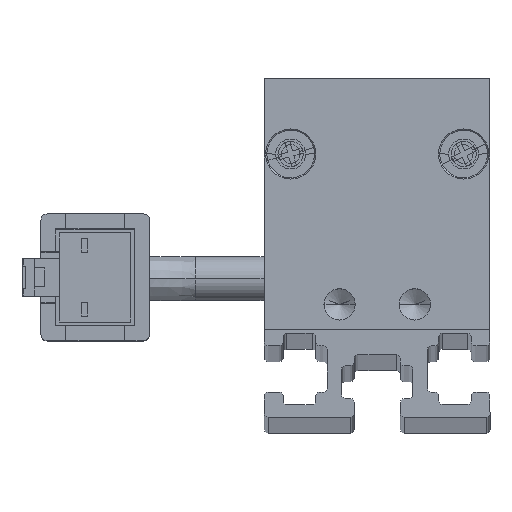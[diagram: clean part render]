
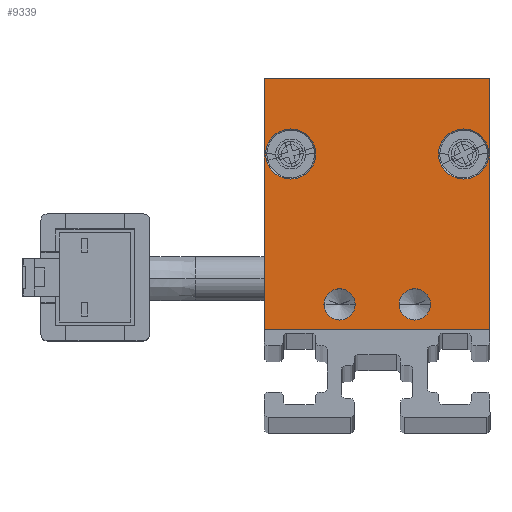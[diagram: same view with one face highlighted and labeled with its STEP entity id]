
A CAD part, top view. The second image highlights one B-rep face of the part: STEP entity #9339.
In plain terms, the highlighted planar face has unit normal (0, 0, 1) as drawn and (0, 0, -1) by its records, which use the part's own axes.
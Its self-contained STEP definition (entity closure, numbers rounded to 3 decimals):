
#350 = VERTEX_POINT ( 'NONE', #11445 ) ;
#455 = CARTESIAN_POINT ( 'NONE',  ( 3., 2., -2.5 ) ) ;
#507 = EDGE_CURVE ( 'NONE', #4960, #9610, #696, .T. ) ;
#592 = AXIS2_PLACEMENT_3D ( 'NONE', #6630, #3814, #5566 ) ;
#696 = CIRCLE ( 'NONE', #8771, 2. ) ;
#1041 = AXIS2_PLACEMENT_3D ( 'NONE', #455, #2402, #4300 ) ;
#1448 = EDGE_CURVE ( 'NONE', #4705, #12423, #3950, .T. ) ;
#1494 = DIRECTION ( 'NONE',  ( -1., 0., 0. ) ) ;
#1530 = DIRECTION ( 'NONE',  ( 0., -1., 0. ) ) ;
#1574 = CARTESIAN_POINT ( 'NONE',  ( 9., 20., -2.5 ) ) ;
#1593 = CIRCLE ( 'NONE', #592, 1.25 ) ;
#1931 = DIRECTION ( 'NONE',  ( -1., 0., 0. ) ) ;
#2077 = EDGE_LOOP ( 'NONE', ( #3131, #11427 ) ) ;
#2402 = DIRECTION ( 'NONE',  ( 0., 0., -1. ) ) ;
#2574 = CARTESIAN_POINT ( 'NONE',  ( -6.9, 14., -2.5 ) ) ;
#2584 = DIRECTION ( 'NONE',  ( 0., 1., 0. ) ) ;
#2820 = DIRECTION ( 'NONE',  ( 0., 0., -1. ) ) ;
#2972 = DIRECTION ( 'NONE',  ( -1., 0., 0. ) ) ;
#3131 = ORIENTED_EDGE ( 'NONE', *, *, #8282, .F. ) ;
#3144 = LINE ( 'NONE', #7729, #11608 ) ;
#3208 = AXIS2_PLACEMENT_3D ( 'NONE', #11344, #7714, #6585 ) ;
#3453 = DIRECTION ( 'NONE',  ( 1., 0., 0. ) ) ;
#3503 = VERTEX_POINT ( 'NONE', #7548 ) ;
#3655 = DIRECTION ( 'NONE',  ( 0., 0., -1. ) ) ;
#3814 = DIRECTION ( 'NONE',  ( 0., 0., -1. ) ) ;
#3950 = CIRCLE ( 'NONE', #10385, 2. ) ;
#3964 = CARTESIAN_POINT ( 'NONE',  ( -4.25, 2., -2.5 ) ) ;
#3976 = ORIENTED_EDGE ( 'NONE', *, *, #7109, .F. ) ;
#4073 = ORIENTED_EDGE ( 'NONE', *, *, #5570, .F. ) ;
#4167 = DIRECTION ( 'NONE',  ( 0., 0., -1. ) ) ;
#4300 = DIRECTION ( 'NONE',  ( -1., 0., 0. ) ) ;
#4307 = EDGE_CURVE ( 'NONE', #3503, #9510, #5214, .T. ) ;
#4404 = AXIS2_PLACEMENT_3D ( 'NONE', #7222, #8185, #1494 ) ;
#4415 = LINE ( 'NONE', #6354, #7471 ) ;
#4520 = CIRCLE ( 'NONE', #4720, 1.25 ) ;
#4522 = FACE_BOUND ( 'NONE', #2077, .T. ) ;
#4622 = CIRCLE ( 'NONE', #3208, 2. ) ;
#4705 = VERTEX_POINT ( 'NONE', #8238 ) ;
#4713 = CARTESIAN_POINT ( 'NONE',  ( -1.75, 2., -2.5 ) ) ;
#4720 = AXIS2_PLACEMENT_3D ( 'NONE', #5916, #4167, #6862 ) ;
#4777 = EDGE_CURVE ( 'NONE', #9610, #4960, #4622, .T. ) ;
#4782 = ORIENTED_EDGE ( 'NONE', *, *, #10736, .F. ) ;
#4932 = EDGE_LOOP ( 'NONE', ( #8389, #6593 ) ) ;
#4960 = VERTEX_POINT ( 'NONE', #7015 ) ;
#5083 = CARTESIAN_POINT ( 'NONE',  ( 8.9, 14., -2.5 ) ) ;
#5103 = CARTESIAN_POINT ( 'NONE',  ( 9., 20., -2.5 ) ) ;
#5214 = CIRCLE ( 'NONE', #4404, 1.25 ) ;
#5275 = EDGE_CURVE ( 'NONE', #9564, #10732, #1593, .T. ) ;
#5497 = CARTESIAN_POINT ( 'NONE',  ( -4.9, 14., -2.5 ) ) ;
#5566 = DIRECTION ( 'NONE',  ( -1., 0., 0. ) ) ;
#5570 = EDGE_CURVE ( 'NONE', #12423, #4705, #10876, .T. ) ;
#5916 = CARTESIAN_POINT ( 'NONE',  ( -3., 2., -2.5 ) ) ;
#6354 = CARTESIAN_POINT ( 'NONE',  ( -9., 20., -2.5 ) ) ;
#6401 = FACE_BOUND ( 'NONE', #7399, .T. ) ;
#6476 = ORIENTED_EDGE ( 'NONE', *, *, #8604, .F. ) ;
#6585 = DIRECTION ( 'NONE',  ( -1., 0., 0. ) ) ;
#6593 = ORIENTED_EDGE ( 'NONE', *, *, #4777, .F. ) ;
#6630 = CARTESIAN_POINT ( 'NONE',  ( -3., 2., -2.5 ) ) ;
#6847 = CARTESIAN_POINT ( 'NONE',  ( 9., 0., -2.5 ) ) ;
#6862 = DIRECTION ( 'NONE',  ( -1., 0., 0. ) ) ;
#6866 = EDGE_LOOP ( 'NONE', ( #3976, #6476, #8688, #4782 ) ) ;
#6967 = VERTEX_POINT ( 'NONE', #6847 ) ;
#7015 = CARTESIAN_POINT ( 'NONE',  ( 4.9, 14., -2.5 ) ) ;
#7109 = EDGE_CURVE ( 'NONE', #11014, #350, #7445, .T. ) ;
#7168 = DIRECTION ( 'NONE',  ( -1., 0., 0. ) ) ;
#7222 = CARTESIAN_POINT ( 'NONE',  ( 3., 2., -2.5 ) ) ;
#7399 = EDGE_LOOP ( 'NONE', ( #7892, #4073 ) ) ;
#7445 = LINE ( 'NONE', #8535, #9275 ) ;
#7471 = VECTOR ( 'NONE', #7168, 1000. ) ;
#7548 = CARTESIAN_POINT ( 'NONE',  ( 4.25, 2., -2.5 ) ) ;
#7714 = DIRECTION ( 'NONE',  ( 0., 0., -1. ) ) ;
#7729 = CARTESIAN_POINT ( 'NONE',  ( -9., 0., -2.5 ) ) ;
#7892 = ORIENTED_EDGE ( 'NONE', *, *, #1448, .F. ) ;
#7908 = AXIS2_PLACEMENT_3D ( 'NONE', #10325, #8245, #3453 ) ;
#8185 = DIRECTION ( 'NONE',  ( 0., 0., -1. ) ) ;
#8238 = CARTESIAN_POINT ( 'NONE',  ( -8.9, 14., -2.5 ) ) ;
#8245 = DIRECTION ( 'NONE',  ( 0., 0., 1. ) ) ;
#8249 = CARTESIAN_POINT ( 'NONE',  ( 6.9, 14., -2.5 ) ) ;
#8282 = EDGE_CURVE ( 'NONE', #9510, #3503, #8915, .T. ) ;
#8349 = EDGE_LOOP ( 'NONE', ( #12077, #12321 ) ) ;
#8389 = ORIENTED_EDGE ( 'NONE', *, *, #507, .F. ) ;
#8535 = CARTESIAN_POINT ( 'NONE',  ( -9., 20., -2.5 ) ) ;
#8604 = EDGE_CURVE ( 'NONE', #10444, #11014, #4415, .T. ) ;
#8688 = ORIENTED_EDGE ( 'NONE', *, *, #10136, .F. ) ;
#8771 = AXIS2_PLACEMENT_3D ( 'NONE', #8249, #2820, #1931 ) ;
#8824 = DIRECTION ( 'NONE',  ( 1., 0., 0. ) ) ;
#8915 = CIRCLE ( 'NONE', #1041, 1.25 ) ;
#9275 = VECTOR ( 'NONE', #1530, 1000. ) ;
#9323 = PLANE ( 'NONE',  #7908 ) ;
#9339 = ADVANCED_FACE ( 'NONE', ( #12231, #6401, #4522, #10198, #12170 ), #9323, .F. ) ;
#9510 = VERTEX_POINT ( 'NONE', #10566 ) ;
#9561 = VECTOR ( 'NONE', #2584, 1000. ) ;
#9564 = VERTEX_POINT ( 'NONE', #4713 ) ;
#9610 = VERTEX_POINT ( 'NONE', #5083 ) ;
#10136 = EDGE_CURVE ( 'NONE', #6967, #10444, #12127, .T. ) ;
#10198 = FACE_BOUND ( 'NONE', #8349, .T. ) ;
#10207 = DIRECTION ( 'NONE',  ( -1., 0., 0. ) ) ;
#10325 = CARTESIAN_POINT ( 'NONE',  ( 0., 0., -2.5 ) ) ;
#10385 = AXIS2_PLACEMENT_3D ( 'NONE', #10479, #11638, #2972 ) ;
#10444 = VERTEX_POINT ( 'NONE', #5103 ) ;
#10479 = CARTESIAN_POINT ( 'NONE',  ( -6.9, 14., -2.5 ) ) ;
#10566 = CARTESIAN_POINT ( 'NONE',  ( 1.75, 2., -2.5 ) ) ;
#10732 = VERTEX_POINT ( 'NONE', #3964 ) ;
#10736 = EDGE_CURVE ( 'NONE', #350, #6967, #3144, .T. ) ;
#10876 = CIRCLE ( 'NONE', #12271, 2. ) ;
#11014 = VERTEX_POINT ( 'NONE', #11580 ) ;
#11344 = CARTESIAN_POINT ( 'NONE',  ( 6.9, 14., -2.5 ) ) ;
#11427 = ORIENTED_EDGE ( 'NONE', *, *, #4307, .F. ) ;
#11445 = CARTESIAN_POINT ( 'NONE',  ( -9., 0., -2.5 ) ) ;
#11479 = EDGE_CURVE ( 'NONE', #10732, #9564, #4520, .T. ) ;
#11580 = CARTESIAN_POINT ( 'NONE',  ( -9., 20., -2.5 ) ) ;
#11608 = VECTOR ( 'NONE', #8824, 1000. ) ;
#11638 = DIRECTION ( 'NONE',  ( 0., 0., -1. ) ) ;
#12077 = ORIENTED_EDGE ( 'NONE', *, *, #11479, .F. ) ;
#12127 = LINE ( 'NONE', #1574, #9561 ) ;
#12170 = FACE_OUTER_BOUND ( 'NONE', #6866, .T. ) ;
#12231 = FACE_BOUND ( 'NONE', #4932, .T. ) ;
#12271 = AXIS2_PLACEMENT_3D ( 'NONE', #2574, #3655, #10207 ) ;
#12321 = ORIENTED_EDGE ( 'NONE', *, *, #5275, .F. ) ;
#12423 = VERTEX_POINT ( 'NONE', #5497 ) ;
